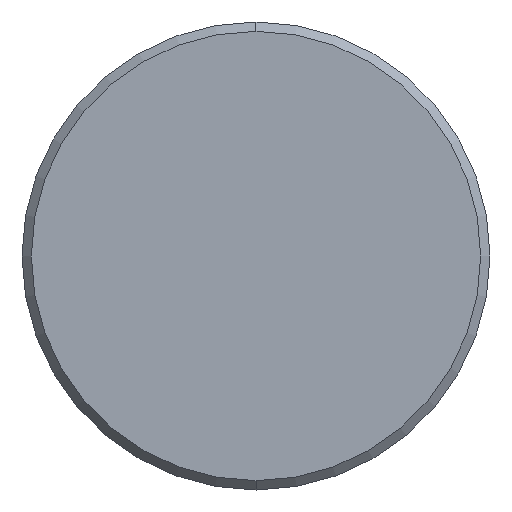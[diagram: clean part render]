
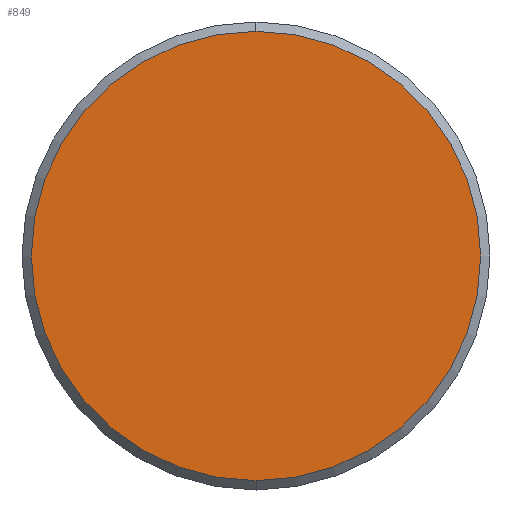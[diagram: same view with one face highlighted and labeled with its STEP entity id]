
A CAD part, left-side view. The second image highlights one B-rep face of the part: STEP entity #849.
In plain terms, the highlighted planar face has unit normal (-1, 0, 0).
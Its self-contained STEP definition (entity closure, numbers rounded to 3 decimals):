
#60 = DIRECTION ( 'NONE',  ( -1., 0., 0. ) ) ;
#186 = PLANE ( 'NONE',  #1384 ) ;
#187 = EDGE_CURVE ( 'NONE', #1189, #1534, #1012, .T. ) ;
#256 = CIRCLE ( 'NONE', #1603, 24. ) ;
#307 = EDGE_CURVE ( 'NONE', #1534, #1189, #256, .T. ) ;
#323 = CARTESIAN_POINT ( 'NONE',  ( -148.6, -24.288, 24.288 ) ) ;
#429 = AXIS2_PLACEMENT_3D ( 'NONE', #556, #564, #1561 ) ;
#448 = DIRECTION ( 'NONE',  ( 0., 0., -1. ) ) ;
#556 = CARTESIAN_POINT ( 'NONE',  ( -148.6, 0., 0. ) ) ;
#564 = DIRECTION ( 'NONE',  ( -1., 0., 0. ) ) ;
#645 = ORIENTED_EDGE ( 'NONE', *, *, #307, .T. ) ;
#826 = CARTESIAN_POINT ( 'NONE',  ( -148.6, 0., 24. ) ) ;
#836 = CARTESIAN_POINT ( 'NONE',  ( -148.6, 0., 0. ) ) ;
#849 = ADVANCED_FACE ( 'NONE', ( #1578 ), #186, .F. ) ;
#965 = DIRECTION ( 'NONE',  ( 0., 0., -1. ) ) ;
#1012 = CIRCLE ( 'NONE', #429, 24. ) ;
#1038 = EDGE_LOOP ( 'NONE', ( #645, #1134 ) ) ;
#1077 = CARTESIAN_POINT ( 'NONE',  ( -148.6, 0., -24. ) ) ;
#1134 = ORIENTED_EDGE ( 'NONE', *, *, #187, .T. ) ;
#1189 = VERTEX_POINT ( 'NONE', #826 ) ;
#1208 = DIRECTION ( 'NONE',  ( 1., 0., 0. ) ) ;
#1384 = AXIS2_PLACEMENT_3D ( 'NONE', #323, #1208, #448 ) ;
#1534 = VERTEX_POINT ( 'NONE', #1077 ) ;
#1561 = DIRECTION ( 'NONE',  ( 0., 0., -1. ) ) ;
#1578 = FACE_OUTER_BOUND ( 'NONE', #1038, .T. ) ;
#1603 = AXIS2_PLACEMENT_3D ( 'NONE', #836, #60, #965 ) ;
